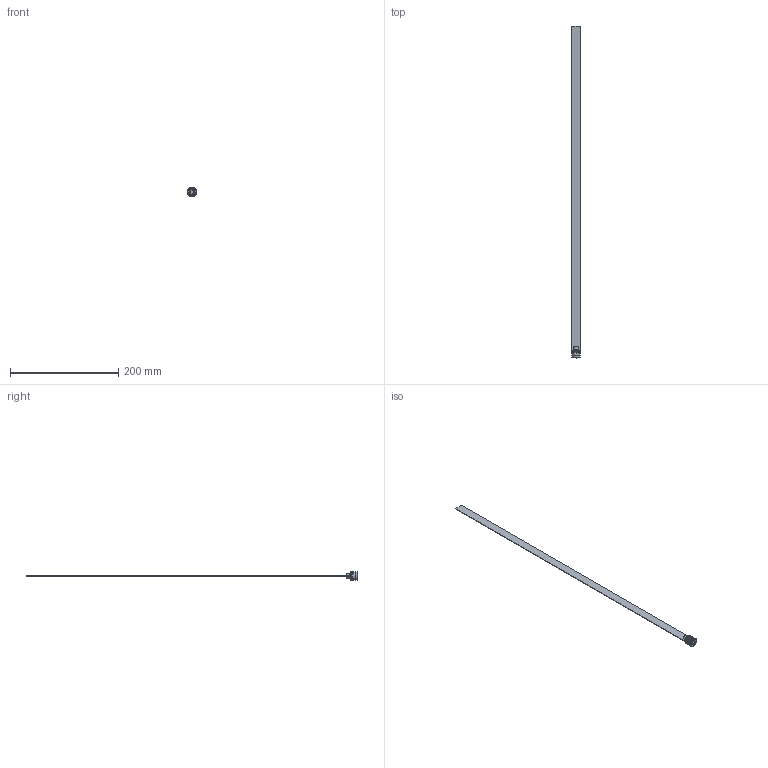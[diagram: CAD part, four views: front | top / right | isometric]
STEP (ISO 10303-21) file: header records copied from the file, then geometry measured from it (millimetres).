
FILE_DESCRIPTION (( 'STEP AP203' ), '1' );
FILE_NAME ('RL-16Fx600-15,5.STEP', '2015-12-02T14:37:29', ( 'Balzi' ), ( '' ), 'SwSTEP 2.0', 'SolidWorks 2015', '' );
FILE_SCHEMA (( 'CONFIG_CONTROL_DESIGN' ));
Length unit declared in the file: millimetre
Products named in the file (1): RL-16Fx600-15,5
Bounding box: 17.5 x 614 x 17.5 mm (x, y, z)
Volume: 12228.3 mm3; surface area: 21577 mm2
Topology: 1 solids, 1 shells, 75 faces, 177 edges, 109 vertices
Faces by surface type: plane 31, cone 19, cylinder 17, torus 8
Entity records: 2245 total; most frequent: CARTESIAN_POINT 412, DIRECTION 386, ORIENTED_EDGE 354, EDGE_CURVE 177, AXIS2_PLACEMENT_3D 147, VERTEX_POINT 109, LINE 92, VECTOR 92
